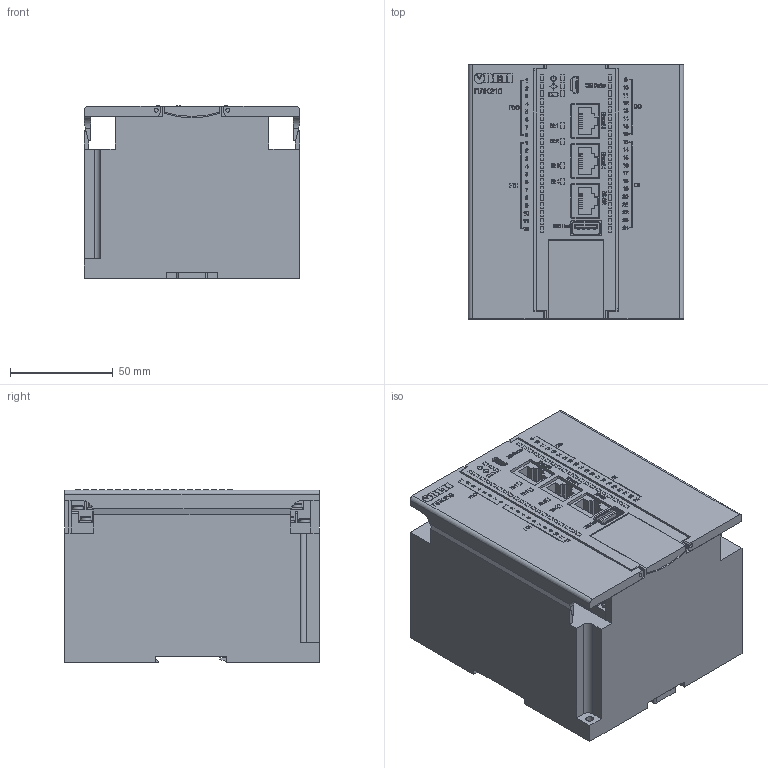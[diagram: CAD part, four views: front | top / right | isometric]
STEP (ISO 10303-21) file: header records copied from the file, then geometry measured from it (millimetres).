
FILE_DESCRIPTION (( 'STEP AP214' ), '1' );
FILE_NAME ('3D ìîäåëü ÏËÊ210-03-CS.STEP', '2020-07-13T11:49:47', ( '' ), ( '' ), 'SwSTEP 2.0', 'SolidWorks 2015', '' );
FILE_SCHEMA (( 'AUTOMOTIVE_DESIGN' ));
Length unit declared in the file: millimetre
Products named in the file (14): Êðûøêà_êëåììíàÿ_ëåâàÿ-03_00; 署赅-耠铗钼_00; USB A; Ethernet; Ïåðåêëþ÷àòåëü ñòàðò_ñòîï_00; Êëåììíèê 2çåë; Êîðïóñ ÏËÊ210_00; Ðîçåòêà ÏËÊ210; Êðûøêà_êëåììíàÿ_ïðàâàÿ-03_00; Ôèêñàòîð ÏËÊ210; 3D ìîäåëü ÏËÊ210-03-CS; SD-card_00; 咈斀霠罻_00; micro usb b
Assembly tree (20 placements, depth 2):
  3D ìîäåëü ÏËÊ210-03-CS
    Êîðïóñ ÏËÊ210_00
    Ethernet  x5
    Êëåììíèê 2çåë  x2
    USB A
    Ôèêñàòîð ÏËÊ210
    micro usb b
    Ðîçåòêà ÏËÊ210  x2
    署赅-耠铗钼_00
    Êðûøêà_êëåììíàÿ_ëåâàÿ-03_00
    Êðûøêà_êëåììíàÿ_ïðàâàÿ-03_00
    Ïåðåêëþ÷àòåëü ñòàðò_ñòîï_00
    咈斀霠罻_00  x2
    SD-card_00
Bounding box: 105 x 124.01 x 84.2 mm (x, y, z)
Volume: 940157.5 mm3; surface area: 154808.5 mm2
Topology: 81 solids, 81 shells, 10760 faces, 30545 edges, 20367 vertices
Faces by surface type: plane 10271, cylinder 253, torus 116, cone 116, bspline 4
Full cylindrical faces by diameter (mm): 1 x2, 1.2 x2, 2 x12, 3.7 x2, 5.2 x56, 5.5 x4
Entity records: 412195 total; most frequent: CARTESIAN_POINT 57373, ORIENTED_EDGE 55452, DIRECTION 47494, EDGE_CURVE 27726, VECTOR 26732, LINE 26732, VERTEX_POINT 18508, AXIS2_PLACEMENT_3D 10381
